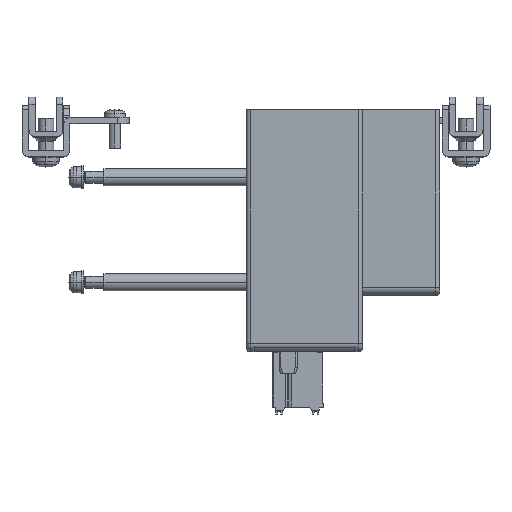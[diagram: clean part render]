
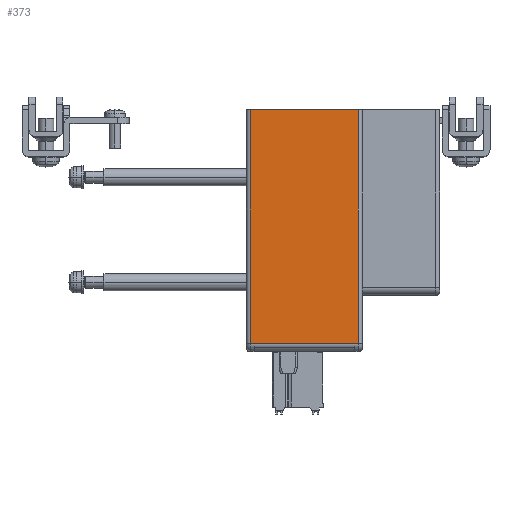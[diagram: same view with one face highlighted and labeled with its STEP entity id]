
A CAD part, top view. The second image highlights one B-rep face of the part: STEP entity #373.
In plain terms, the highlighted planar face has unit normal (0, 0, 1).
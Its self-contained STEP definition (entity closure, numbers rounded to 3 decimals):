
#373=ADVANCED_FACE('',(#3523),#3522,.F.);
#3522=PLANE('',#10805);
#3523=FACE_OUTER_BOUND('',#10806,.T.);
#10802=CARTESIAN_POINT('',(31.8,-72.15,62.2));
#10803=DIRECTION('',(0.,0.,-1.));
#10804=DIRECTION('',(-1.,0.,0.));
#10805=AXIS2_PLACEMENT_3D('',#10802,#10803,#10804);
#10806=EDGE_LOOP('',(#16207,#16208,#16209,#16210));
#16207=ORIENTED_EDGE('',*,*,#19211,.T.);
#16208=ORIENTED_EDGE('',*,*,#20051,.F.);
#16209=ORIENTED_EDGE('',*,*,#19242,.T.);
#16210=ORIENTED_EDGE('',*,*,#19100,.T.);
#19100=EDGE_CURVE('',#21483,#21476,#21484,.T.);
#19211=EDGE_CURVE('',#21476,#22239,#22246,.T.);
#19242=EDGE_CURVE('',#22441,#21483,#22454,.T.);
#20051=EDGE_CURVE('',#22441,#22239,#27904,.T.);
#21476=VERTEX_POINT('',#35884);
#21483=VERTEX_POINT('',#35889);
#21484=LINE('',#35890,#35891);
#22239=VERTEX_POINT('',#36339);
#22246=LINE('',#36344,#36345);
#22441=VERTEX_POINT('',#36468);
#22454=LINE('',#36477,#36478);
#27904=LINE('',#39655,#39656);
#35884=CARTESIAN_POINT('',(1.,-5.6,62.2));
#35889=CARTESIAN_POINT('',(29.,-5.6,62.2));
#35890=CARTESIAN_POINT('',(29.,-5.6,62.2));
#35891=VECTOR('',#35892,28.);
#35892=DIRECTION('',(-1.,0.,0.));
#36339=CARTESIAN_POINT('',(1.,-66.1,62.2));
#36344=CARTESIAN_POINT('',(1.,-5.6,62.2));
#36345=VECTOR('',#36346,60.5);
#36346=DIRECTION('',(0.,-1.,0.));
#36468=CARTESIAN_POINT('',(29.,-66.1,62.2));
#36477=CARTESIAN_POINT('',(29.,-66.1,62.2));
#36478=VECTOR('',#36479,60.5);
#36479=DIRECTION('',(0.,1.,0.));
#39655=CARTESIAN_POINT('',(29.,-66.1,62.2));
#39656=VECTOR('',#39657,28.);
#39657=DIRECTION('',(-1.,0.,0.));
